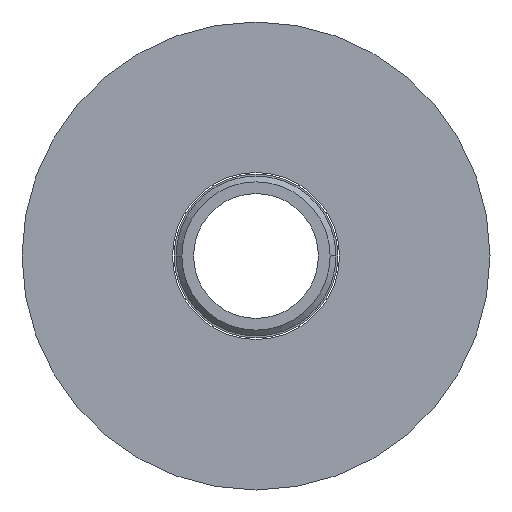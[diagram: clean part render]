
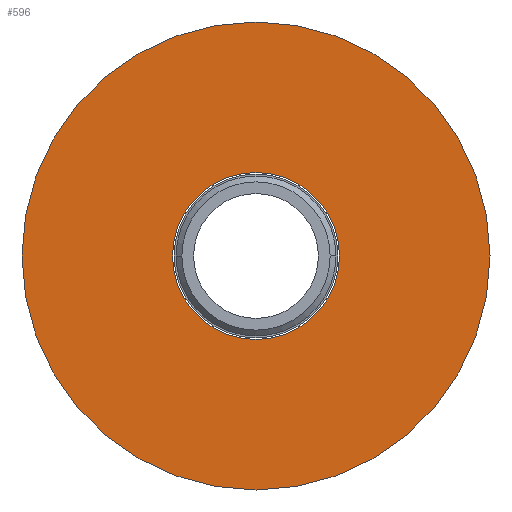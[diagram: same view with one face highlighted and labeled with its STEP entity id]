
A CAD part, front view. The second image highlights one B-rep face of the part: STEP entity #596.
In plain terms, the highlighted planar face has unit normal (0, -1, 0).
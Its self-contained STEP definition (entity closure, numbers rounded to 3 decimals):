
#491=CARTESIAN_POINT('',(0.,141.5,0.));
#492=DIRECTION('',(0.,1.,0.));
#493=DIRECTION('',(0.,0.,-1.));
#494=AXIS2_PLACEMENT_3D('',#491,#492,#493);
#496=CARTESIAN_POINT('',(0.,141.5,0.));
#497=DIRECTION('',(0.,1.,0.));
#498=DIRECTION('',(0.,0.,1.));
#499=AXIS2_PLACEMENT_3D('',#496,#497,#498);
#501=CARTESIAN_POINT('',(0.,141.5,0.));
#502=DIRECTION('',(0.,-1.,0.));
#503=DIRECTION('',(0.,0.,-1.));
#504=AXIS2_PLACEMENT_3D('',#501,#502,#503);
#506=CARTESIAN_POINT('',(0.,141.5,0.));
#507=DIRECTION('',(0.,-1.,0.));
#508=DIRECTION('',(0.,0.,1.));
#509=AXIS2_PLACEMENT_3D('',#506,#507,#508);
#527=CARTESIAN_POINT('',(0.,141.5,-10.709));
#528=CARTESIAN_POINT('',(0.,141.5,10.709));
#529=VERTEX_POINT('',#527);
#530=VERTEX_POINT('',#528);
#531=CARTESIAN_POINT('',(0.,141.5,-30.));
#532=CARTESIAN_POINT('',(0.,141.5,30.));
#533=VERTEX_POINT('',#531);
#534=VERTEX_POINT('',#532);
#581=CARTESIAN_POINT('',(0.,141.5,0.));
#582=DIRECTION('',(0.,1.,0.));
#583=DIRECTION('',(0.,0.,-1.));
#584=AXIS2_PLACEMENT_3D('',#581,#582,#583);
#585=PLANE('',#584);
#586=ORIENTED_EDGE('',*,*,#561,.T.);
#587=ORIENTED_EDGE('',*,*,#575,.T.);
#588=EDGE_LOOP('',(#586,#587));
#589=FACE_OUTER_BOUND('',#588,.F.);
#591=ORIENTED_EDGE('',*,*,#590,.T.);
#593=ORIENTED_EDGE('',*,*,#592,.T.);
#594=EDGE_LOOP('',(#591,#593));
#595=FACE_BOUND('',#594,.F.);
#596=ADVANCED_FACE('',(#589,#595),#585,.F.);
#495=CIRCLE('',#494,30.);
#500=CIRCLE('',#499,30.);
#505=CIRCLE('',#504,10.709);
#510=CIRCLE('',#509,10.709);
#561=EDGE_CURVE('',#533,#534,#495,.T.);
#575=EDGE_CURVE('',#534,#533,#500,.T.);
#590=EDGE_CURVE('',#529,#530,#505,.T.);
#592=EDGE_CURVE('',#530,#529,#510,.T.);
